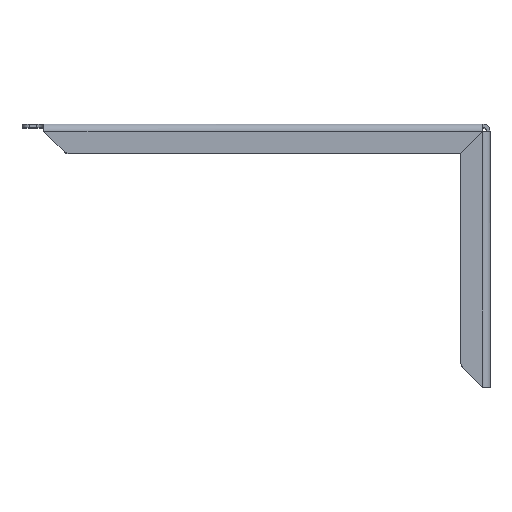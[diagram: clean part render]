
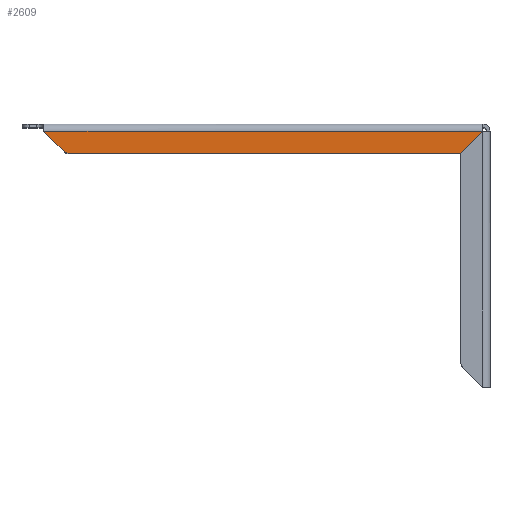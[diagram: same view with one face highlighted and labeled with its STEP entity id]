
A CAD part, top view. The second image highlights one B-rep face of the part: STEP entity #2609.
In plain terms, the highlighted planar face has unit normal (0, 0, 1).
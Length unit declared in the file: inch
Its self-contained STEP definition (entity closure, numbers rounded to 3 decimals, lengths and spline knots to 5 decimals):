
#132=PLANE('',#2836);
#239=FACE_OUTER_BOUND('',#427,.T.);
#427=EDGE_LOOP('',(#2045,#2046,#2047,#2048,#2049));
#623=LINE('',#4068,#843);
#641=LINE('',#4110,#861);
#642=LINE('',#4112,#862);
#643=LINE('',#4113,#863);
#843=VECTOR('',#3342,0.3937);
#861=VECTOR('',#3390,0.3937);
#862=VECTOR('',#3391,0.3937);
#863=VECTOR('',#3392,0.3937);
#1017=CIRCLE('',#2819,0.25);
#1207=VERTEX_POINT('',#4053);
#1208=VERTEX_POINT('',#4055);
#1212=VERTEX_POINT('',#4067);
#1221=VERTEX_POINT('',#4109);
#1222=VERTEX_POINT('',#4111);
#1483=EDGE_CURVE('',#1207,#1208,#1017,.T.);
#1489=EDGE_CURVE('',#1212,#1208,#623,.T.);
#1511=EDGE_CURVE('',#1221,#1207,#641,.T.);
#1512=EDGE_CURVE('',#1222,#1221,#642,.T.);
#1513=EDGE_CURVE('',#1222,#1212,#643,.T.);
#2045=ORIENTED_EDGE('',*,*,#1483,.F.);
#2046=ORIENTED_EDGE('',*,*,#1511,.F.);
#2047=ORIENTED_EDGE('',*,*,#1512,.F.);
#2048=ORIENTED_EDGE('',*,*,#1513,.T.);
#2049=ORIENTED_EDGE('',*,*,#1489,.T.);
#2609=ADVANCED_FACE('',(#239),#132,.T.);
#2819=AXIS2_PLACEMENT_3D('',#4056,#3331,#3332);
#2836=AXIS2_PLACEMENT_3D('',#4108,#3388,#3389);
#3331=DIRECTION('center_axis',(0.,0.,
-1.));
#3332=DIRECTION('ref_axis',(-0.383,-0.924,0.));
#3342=DIRECTION('',(0.707,-0.707,0.));
#3388=DIRECTION('center_axis',(0.,0.,
1.));
#3389=DIRECTION('ref_axis',(0.,-1.,0.));
#3390=DIRECTION('',(-1.,0.,0.));
#3391=DIRECTION('',(-0.707,-0.707,0.));
#3392=DIRECTION('',(-1.,0.,0.));
#4053=CARTESIAN_POINT('',(-14.38645,-1.,7.3));
#4055=CARTESIAN_POINT('',(-14.56322,-0.92678,7.3));
#4056=CARTESIAN_POINT('Origin',(-14.38645,-0.75,7.3));
#4067=CARTESIAN_POINT('',(-15.25,-0.24,7.3));
#4068=CARTESIAN_POINT('',(-13.40643,-2.08357,7.3));
#4108=CARTESIAN_POINT('Origin',(-8.12,-0.48428,7.3));
#4109=CARTESIAN_POINT('',(-1.01414,-1.,7.3));
#4110=CARTESIAN_POINT('',(-0.24,-1.,7.3));
#4111=CARTESIAN_POINT('',(-0.25414,-0.24,7.3));
#4112=CARTESIAN_POINT('',(-2.47168,-2.45754,7.3));
#4113=CARTESIAN_POINT('',(-8.12,-0.24,7.3));
